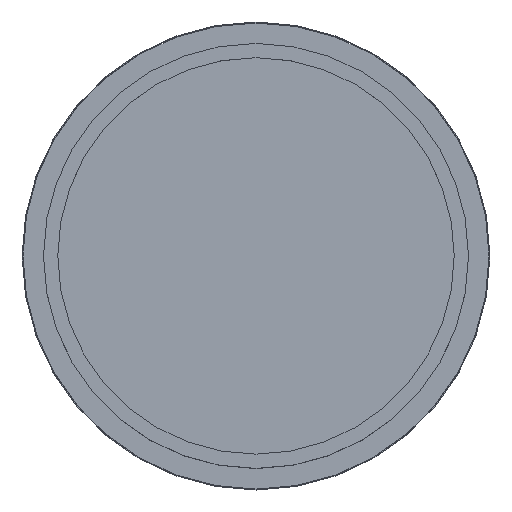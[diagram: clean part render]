
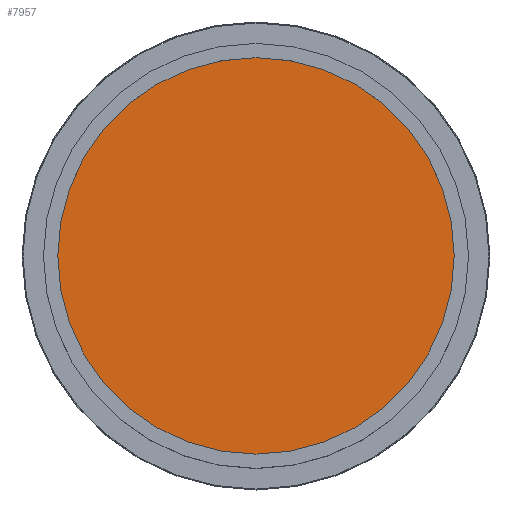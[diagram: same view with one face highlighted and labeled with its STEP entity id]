
A CAD part, top view. The second image highlights one B-rep face of the part: STEP entity #7957.
In plain terms, the highlighted planar face has unit normal (0, 0, 1).
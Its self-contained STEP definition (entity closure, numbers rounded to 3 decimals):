
#791 = CARTESIAN_POINT ( 'NONE',  ( 277.5, 0., 60. ) ) ;
#2023 = CARTESIAN_POINT ( 'NONE',  ( 0., 0., 60. ) ) ;
#2026 = PLANE ( 'NONE',  #7560 ) ;
#2028 = DIRECTION ( 'NONE',  ( 0., 0., -1. ) ) ;
#2029 = DIRECTION ( 'NONE',  ( -1., 0., 0. ) ) ;
#2435 = DIRECTION ( 'NONE',  ( 1., 0., 0. ) ) ;
#2436 = DIRECTION ( 'NONE',  ( 0., 0., 1. ) ) ;
#2437 = CARTESIAN_POINT ( 'NONE',  ( 0., 0., 60. ) ) ;
#2715 = CARTESIAN_POINT ( 'NONE',  ( -277.5, 0., 60. ) ) ;
#3399 = CIRCLE ( 'NONE', #6568, 277.5 ) ;
#3414 = CIRCLE ( 'NONE', #6574, 277.5 ) ;
#3625 = EDGE_CURVE ( 'NONE', #7684, #6329, #3399, .T. ) ;
#3634 = EDGE_CURVE ( 'NONE', #6329, #7684, #3414, .T. ) ;
#4138 = EDGE_LOOP ( 'NONE', ( #4796, #4795 ) ) ;
#4795 = ORIENTED_EDGE ( 'NONE', *, *, #3625, .T. ) ;
#4796 = ORIENTED_EDGE ( 'NONE', *, *, #3634, .T. ) ;
#6066 = DIRECTION ( 'NONE',  ( 1., 0., 0. ) ) ;
#6067 = DIRECTION ( 'NONE',  ( 0., 0., 1. ) ) ;
#6069 = CARTESIAN_POINT ( 'NONE',  ( 0., 0., 60. ) ) ;
#6171 = FACE_OUTER_BOUND ( 'NONE', #4138, .T. ) ;
#6329 = VERTEX_POINT ( 'NONE', #2715 ) ;
#6568 = AXIS2_PLACEMENT_3D ( 'NONE', #2437, #2436, #2435 ) ;
#6574 = AXIS2_PLACEMENT_3D ( 'NONE', #6069, #6067, #6066 ) ;
#7560 = AXIS2_PLACEMENT_3D ( 'NONE', #2023, #2028, #2029 ) ;
#7684 = VERTEX_POINT ( 'NONE', #791 ) ;
#7957 = ADVANCED_FACE ( 'NONE', ( #6171 ), #2026, .F. ) ;
